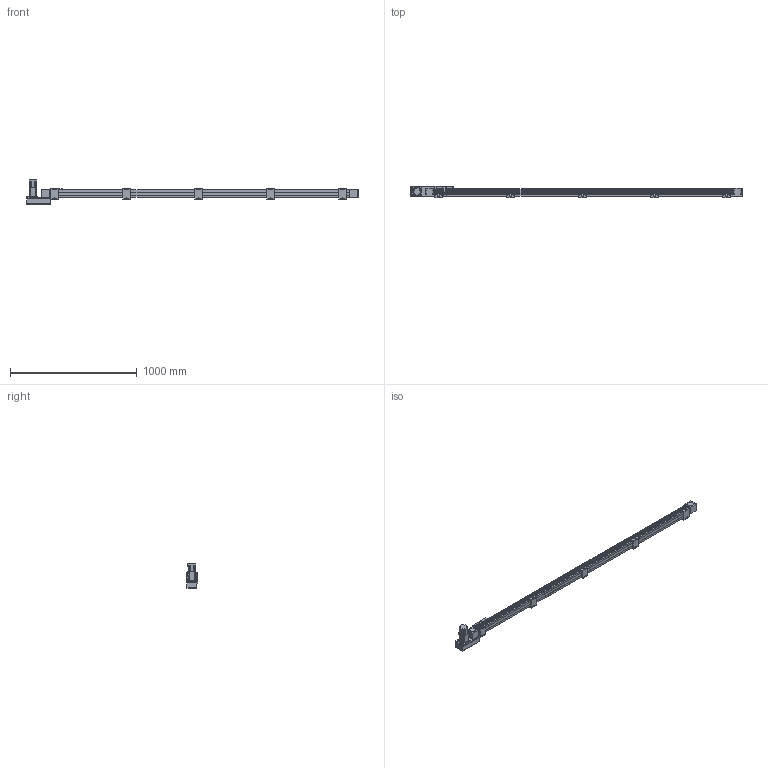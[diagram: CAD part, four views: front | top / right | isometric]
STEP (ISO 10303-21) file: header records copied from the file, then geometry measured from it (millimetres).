
FILE_DESCRIPTION(/* description */ ('STEP AP214'),/* implementation_level */ '2;1');
FILE_NAME(/* name */ 'SK60-P13-S2200-L-T40-C1-N(0)',/* time_stamp */ '2023-04-06T04:11:54+02:00',/* author */ ('License CC BY-ND 4.0'),/* organization */ ('CADENAS'),/* preprocessor_version */ 'ST-DEVELOPER v19.3',/* originating_system */ 'PARTsolutions',/* authorisation */ ' ');
FILE_SCHEMA (('AUTOMOTIVE_DESIGN {1 0 10303 214 3 1 1}'));
Length unit declared in the file: millimetre
Products named in the file (10): SK60-P13-S2200-L-T40-C1-N(0); PSC140-sensor; SK60-S450_seat; SK60-S450-BL-C1_slider; SK60_body3; SK60_body6; SK60-BL_body2; T40-p1; SK60-L_fb; SK60-S2200-L-C1_body
Assembly tree (19 placements, depth 2):
  SK60-P13-S2200-L-T40-C1-N(0)
    PSC140-sensor  x3
    SK60-S450_seat  x5
    SK60-S450-BL-C1_slider
    SK60_body3  x3
    SK60_body6  x2
    SK60-BL_body2  x2
    T40-p1
    SK60-L_fb
    SK60-S2200-L-C1_body
Bounding box: 2620.5 x 90 x 189.7 mm (x, y, z)
Volume: 9716652.1 mm3; surface area: 1157243 mm2
Topology: 19 solids, 19 shells, 942 faces, 2342 edges, 1541 vertices
Faces by surface type: plane 596, cylinder 310, cone 34, torus 2
Full cylindrical faces by diameter (mm): 2.8 x3, 3.3 x4, 4 x2, 4.5 x30, 4.6 x3, 4.917 x28, 5 x6, 5.478 x4, 5.5 x31, 6.5 x10, 7 x2, 8 x4, 8.5 x4, 9.988 x4, 10 x20, 14 x1, 47 x3, 50 x2
Entity records: 18679 total; most frequent: DIRECTION 3190, CARTESIAN_POINT 3153, ORIENTED_EDGE 2940, EDGE_CURVE 1470, AXIS2_PLACEMENT_3D 1071, LINE 1048, VECTOR 1048, VERTEX_POINT 1034
